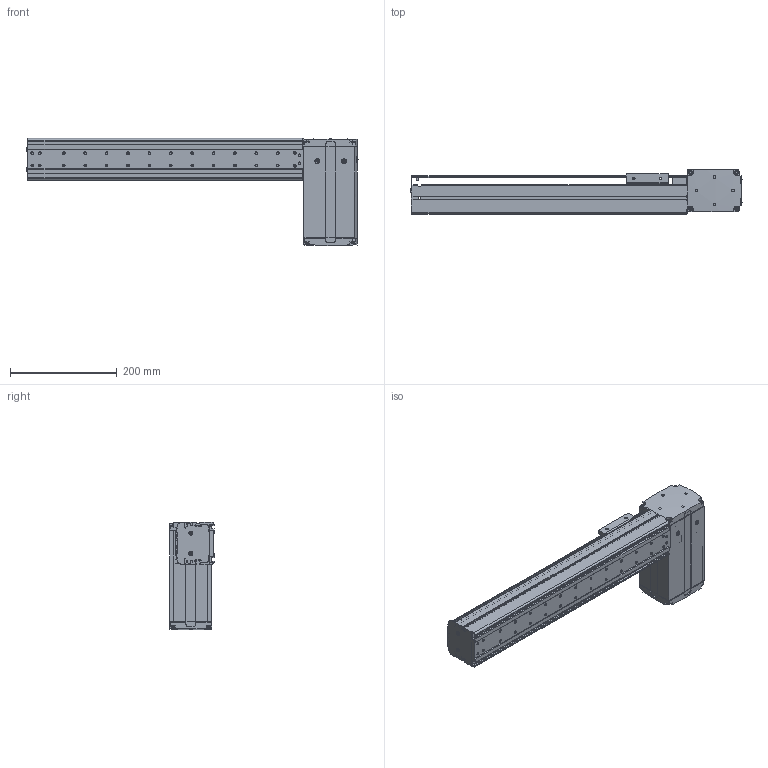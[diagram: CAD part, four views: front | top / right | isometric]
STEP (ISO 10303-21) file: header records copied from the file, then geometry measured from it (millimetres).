
FILE_DESCRIPTION((''),'2;1');
FILE_NAME('BE10_-BL-S_N-35_IGS_PRT','2017-06-18T',(' '),(''),'PRO/ENGINEER BY PARAMETRIC TECHNOLOGY CORPORATION, 2015030','PRO/ENGINEER BY PARAMETRIC TECHNOLOGY CORPORATION, 2015030','');
FILE_SCHEMA(('CONFIG_CONTROL_DESIGN'));
Length unit declared in the file: millimetre
Products named in the file (1): BE10_-BL-S_N-35_IGS_PRT
Bounding box: 620.8 x 82.5 x 200.22 mm (x, y, z)
Volume: 896560.9 mm3; surface area: 640081 mm2
Topology: 3 solids, 108 shells, 1928 faces, 5259 edges, 3441 vertices
Faces by surface type: plane 967, cylinder 798, cone 103, sphere 30, torus 27, bspline 3
Entity records: 62359 total; most frequent: CARTESIAN_POINT 12586, DIRECTION 10536, ORIENTED_EDGE 10058, EDGE_CURVE 5205, AXIS2_PLACEMENT_3D 3709, VERTEX_POINT 3441, VECTOR 3118, LINE 3118
